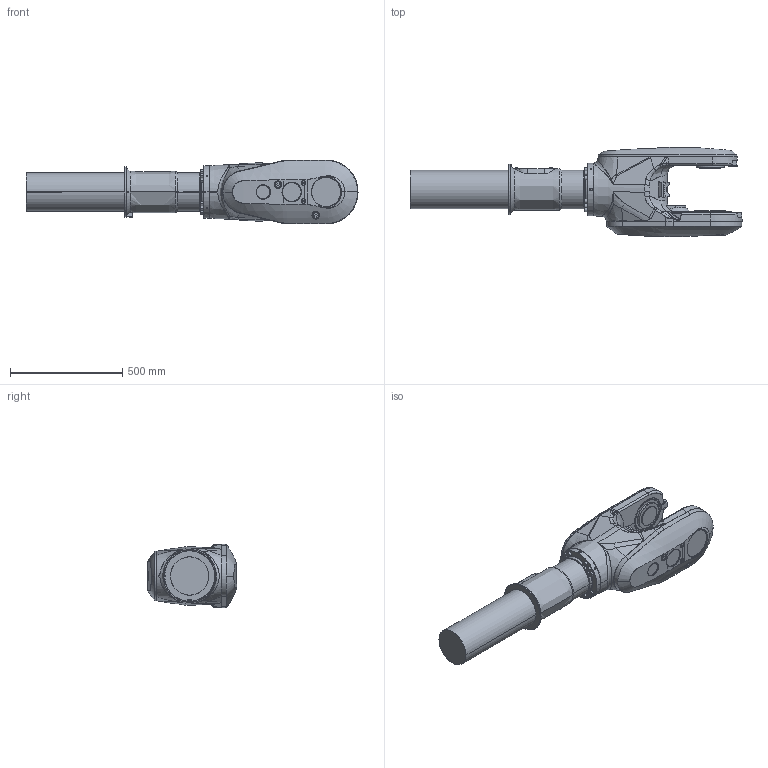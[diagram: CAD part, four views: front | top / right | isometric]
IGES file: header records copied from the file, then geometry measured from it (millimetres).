
Start section: SolidWorks IGES file using analytic representation for surfaces
Global section: file name: C:\DATA\SAP_DOC\LW\IRB 6720\IRB6720-LID-MH_215kg-265_OC_01_SW_J\export\IRB6720-LID-MH_215kg-265_OC_01_IGES_J\IRB6720-LID_215kg-265_OC_00_LINK04_CAD.igs; native system: SolidWorks 2024; preprocessor: SolidWorks 2024; author: SEJOVAS3; date: 260526.094329; units: millimetre
Bounding box: 1477.5 x 396.47 x 284 mm (x, y, z)
Surface area: 1382381.6 mm2 (no closed solid volume)
Topology: 0 solids, 0 shells, 708 faces, 12929 edges, 12904 vertices
Faces by surface type: bspline 423, revolution 285
